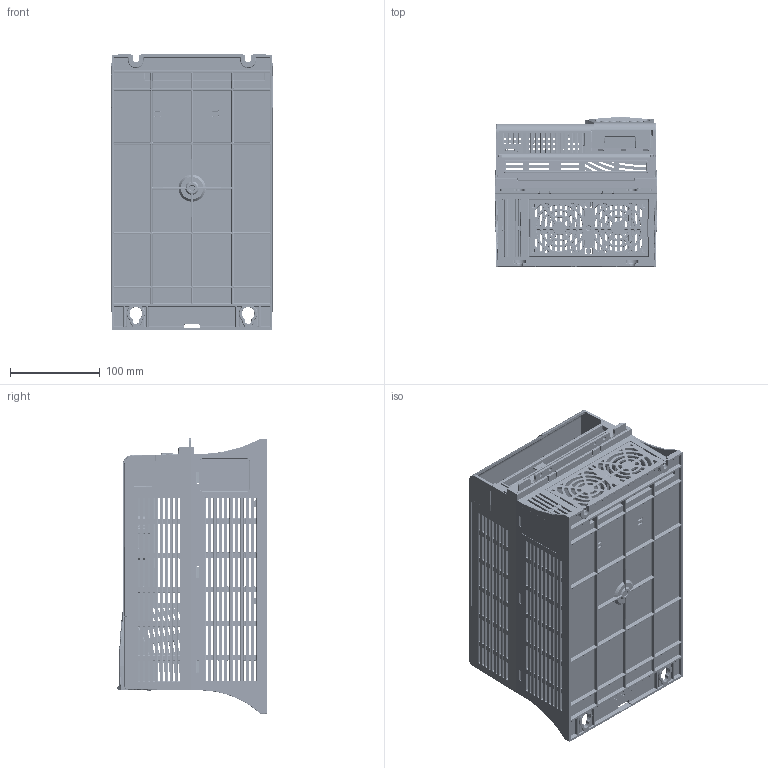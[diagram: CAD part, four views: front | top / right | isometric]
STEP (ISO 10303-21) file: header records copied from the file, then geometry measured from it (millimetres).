
FILE_DESCRIPTION (( 'STEP AP203' ), '1' );
FILE_NAME ('CFW500 MEC D IP20.STEP', '2015-05-20T19:34:10', ( 'Usuário do Windows' ), ( 'WEG Equipamentos Elétricos' ), 'SwSTEP 2.0', 'SolidWorks 2014', '' );
FILE_SCHEMA (( 'CONFIG_CONTROL_DESIGN' ));
Products named in the file (1): CFW500 MEC D IP20
Bounding box: 180 x 166.49 x 306.6 mm (x, y, z)
Volume: 768820.5 mm3; surface area: 634964 mm2
Topology: 7 solids, 7 shells, 15446 faces, 39254 edges, 22506 vertices
Faces by surface type: cylinder 5891, bspline 4940, plane 3751, sphere 590, cone 186, torus 88
Entity records: 559997 total; most frequent: CARTESIAN_POINT 244157, ORIENTED_EDGE 76110, DIRECTION 54721, EDGE_CURVE 38055, VERTEX_POINT 22502, AXIS2_PLACEMENT_3D 18826, LINE 17069, VECTOR 17069
